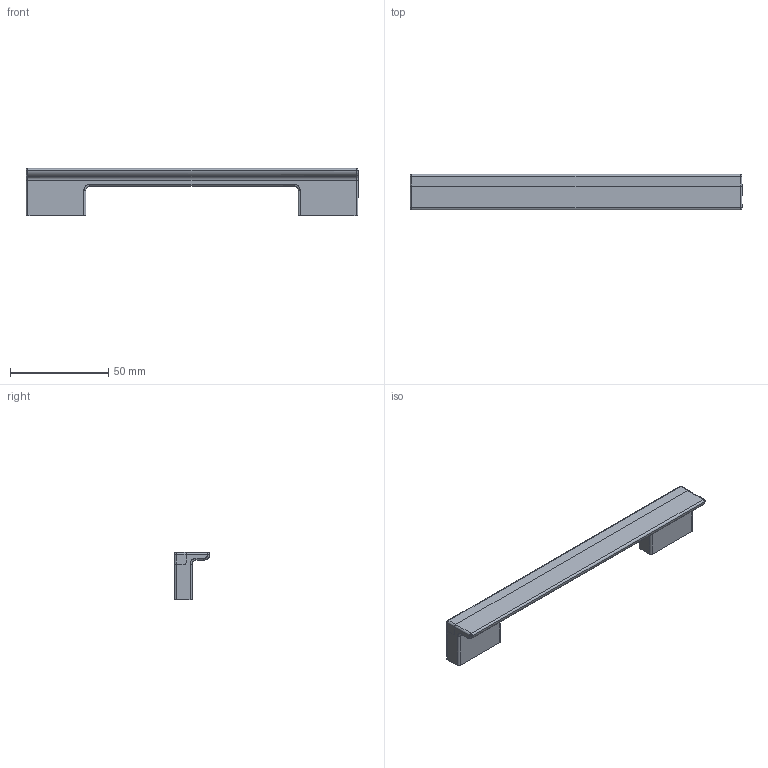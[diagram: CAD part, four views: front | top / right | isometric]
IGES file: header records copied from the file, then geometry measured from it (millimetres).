
Start section: C
Global section: file name: 8095-170.igs; native system: By Siemens PLM Incorporated; preprocessor: XPlus GENERIC/IGES 16.0.42; author: Author; organization: Title; date: 20231128.120136; units: millimetre
Bounding box: 169 x 18 x 24 mm (x, y, z)
Surface area: 17568.5 mm2 (no closed solid volume)
Topology: 0 solids, 0 shells, 291 faces, 1548 edges, 1535 vertices
Faces by surface type: bspline 291
